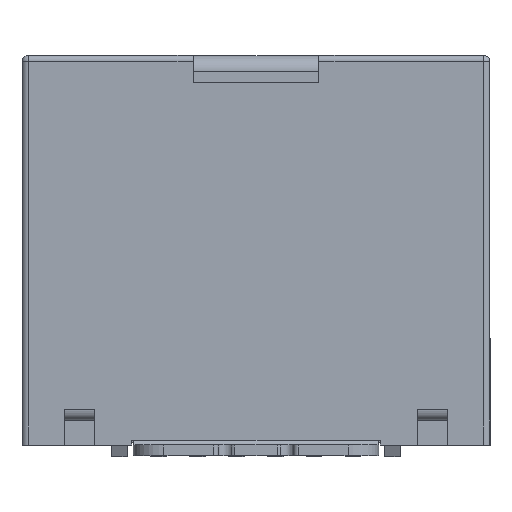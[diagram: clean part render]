
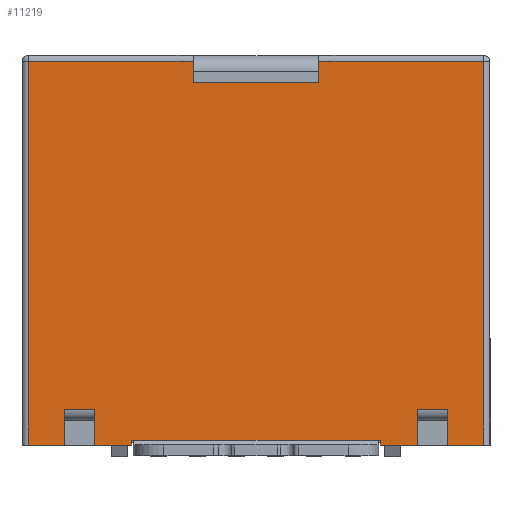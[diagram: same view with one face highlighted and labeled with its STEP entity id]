
A CAD part, top view. The second image highlights one B-rep face of the part: STEP entity #11219.
In plain terms, the highlighted planar face has unit normal (0, 0, 1).
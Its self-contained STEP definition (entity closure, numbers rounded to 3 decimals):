
#2042=DIRECTION('',(-1.,0.,0.));
#2043=VECTOR('',#2042,5.375);
#2044=CARTESIAN_POINT('',(9.252,4.774,13.843));
#2045=LINE('',#2044,#2043);
#2046=DIRECTION('',(0.,1.,0.));
#2047=VECTOR('',#2046,0.7);
#2048=CARTESIAN_POINT('',(9.252,4.074,13.843));
#2049=LINE('',#2048,#2047);
#2050=DIRECTION('',(0.,-1.,0.));
#2051=VECTOR('',#2050,0.7);
#2052=CARTESIAN_POINT('',(13.352,4.774,13.843));
#2053=LINE('',#2052,#2051);
#2054=DIRECTION('',(-1.,0.,0.));
#2055=VECTOR('',#2054,5.375);
#2056=CARTESIAN_POINT('',(18.727,4.774,13.843));
#2057=LINE('',#2056,#2055);
#2058=DIRECTION('',(0.,1.,0.));
#2059=VECTOR('',#2058,12.5);
#2060=CARTESIAN_POINT('',(18.727,-7.726,13.843));
#2061=LINE('',#2060,#2059);
#2062=DIRECTION('',(1.,0.,0.));
#2063=VECTOR('',#2062,1.175);
#2064=CARTESIAN_POINT('',(17.552,-7.726,13.843));
#2065=LINE('',#2064,#2063);
#2066=DIRECTION('',(1.,0.,0.));
#2067=VECTOR('',#2066,1.);
#2068=CARTESIAN_POINT('',(16.552,-6.576,13.843));
#2069=LINE('',#2068,#2067);
#2070=DIRECTION('',(1.,0.,0.));
#2071=VECTOR('',#2070,1.);
#2072=CARTESIAN_POINT('',(5.052,-6.576,13.843));
#2073=LINE('',#2072,#2071);
#2074=DIRECTION('',(1.,0.,0.));
#2075=VECTOR('',#2074,1.175);
#2076=CARTESIAN_POINT('',(3.877,-7.726,13.843));
#2077=LINE('',#2076,#2075);
#2078=DIRECTION('',(0.,-1.,0.));
#2079=VECTOR('',#2078,12.5);
#2080=CARTESIAN_POINT('',(3.877,4.774,13.843));
#2081=LINE('',#2080,#2079);
#2087=DIRECTION('',(1.,0.,0.));
#2088=VECTOR('',#2087,4.1);
#2089=CARTESIAN_POINT('',(9.252,4.074,13.843));
#2090=LINE('',#2089,#2088);
#2478=DIRECTION('',(0.,-1.,0.));
#2479=VECTOR('',#2478,1.15);
#2480=CARTESIAN_POINT('',(5.052,-6.576,13.843));
#2481=LINE('',#2480,#2479);
#2501=DIRECTION('',(0.,1.,0.));
#2502=VECTOR('',#2501,1.15);
#2503=CARTESIAN_POINT('',(6.052,-7.726,13.843));
#2504=LINE('',#2503,#2502);
#2509=DIRECTION('',(-1.,0.,0.));
#2510=VECTOR('',#2509,1.2);
#2511=CARTESIAN_POINT('',(7.252,-7.726,13.843));
#2512=LINE('',#2511,#2510);
#2525=DIRECTION('',(0.,-1.,0.));
#2526=VECTOR('',#2525,0.16);
#2527=CARTESIAN_POINT('',(7.252,-7.566,13.843));
#2528=LINE('',#2527,#2526);
#2533=DIRECTION('',(-1.,0.,0.));
#2534=VECTOR('',#2533,8.1);
#2535=CARTESIAN_POINT('',(15.352,-7.566,13.843));
#2536=LINE('',#2535,#2534);
#2541=DIRECTION('',(0.,1.,0.));
#2542=VECTOR('',#2541,0.16);
#2543=CARTESIAN_POINT('',(15.352,-7.726,13.843));
#2544=LINE('',#2543,#2542);
#2553=DIRECTION('',(-1.,0.,0.));
#2554=VECTOR('',#2553,1.2);
#2555=CARTESIAN_POINT('',(16.552,-7.726,13.843));
#2556=LINE('',#2555,#2554);
#2569=DIRECTION('',(0.,-1.,0.));
#2570=VECTOR('',#2569,1.15);
#2571=CARTESIAN_POINT('',(16.552,-6.576,13.843));
#2572=LINE('',#2571,#2570);
#2617=DIRECTION('',(0.,1.,0.));
#2618=VECTOR('',#2617,1.15);
#2619=CARTESIAN_POINT('',(17.552,-7.726,13.843));
#2620=LINE('',#2619,#2618);
#7921=CARTESIAN_POINT('',(9.252,4.074,13.843));
#7922=VERTEX_POINT('',#7921);
#7923=CARTESIAN_POINT('',(9.252,4.774,13.843));
#7924=VERTEX_POINT('',#7923);
#7966=CARTESIAN_POINT('',(13.352,4.774,13.843));
#7967=VERTEX_POINT('',#7966);
#7968=CARTESIAN_POINT('',(13.352,4.074,13.843));
#7969=VERTEX_POINT('',#7968);
#7976=CARTESIAN_POINT('',(18.727,4.774,13.843));
#7977=VERTEX_POINT('',#7976);
#7980=CARTESIAN_POINT('',(18.727,-7.726,13.843));
#7981=VERTEX_POINT('',#7980);
#7984=CARTESIAN_POINT('',(3.877,4.774,13.843));
#7985=VERTEX_POINT('',#7984);
#7986=CARTESIAN_POINT('',(17.552,-7.726,13.843));
#7987=VERTEX_POINT('',#7986);
#7988=CARTESIAN_POINT('',(17.552,-6.576,13.843));
#7989=VERTEX_POINT('',#7988);
#7990=CARTESIAN_POINT('',(16.552,-6.576,13.843));
#7991=VERTEX_POINT('',#7990);
#7992=CARTESIAN_POINT('',(16.552,-7.726,13.843));
#7993=VERTEX_POINT('',#7992);
#7994=CARTESIAN_POINT('',(15.352,-7.726,13.843));
#7995=VERTEX_POINT('',#7994);
#7996=CARTESIAN_POINT('',(15.352,-7.566,13.843));
#7997=VERTEX_POINT('',#7996);
#7998=CARTESIAN_POINT('',(7.252,-7.566,13.843));
#7999=VERTEX_POINT('',#7998);
#8000=CARTESIAN_POINT('',(7.252,-7.726,13.843));
#8001=VERTEX_POINT('',#8000);
#8002=CARTESIAN_POINT('',(6.052,-7.726,13.843));
#8003=VERTEX_POINT('',#8002);
#8004=CARTESIAN_POINT('',(6.052,-6.576,13.843));
#8005=VERTEX_POINT('',#8004);
#8006=CARTESIAN_POINT('',(5.052,-6.576,13.843));
#8007=VERTEX_POINT('',#8006);
#8008=CARTESIAN_POINT('',(5.052,-7.726,13.843));
#8009=VERTEX_POINT('',#8008);
#8010=CARTESIAN_POINT('',(3.877,-7.726,13.843));
#8011=VERTEX_POINT('',#8010);
#11174=CARTESIAN_POINT('',(11.302,-1.476,
13.843));
#11175=DIRECTION('',(0.,0.,1.));
#11176=DIRECTION('',(0.,1.,0.));
#11177=AXIS2_PLACEMENT_3D('',#11174,#11175,#11176);
#11178=PLANE('',#11177);
#11180=ORIENTED_EDGE('',*,*,#11179,.F.);
#11181=ORIENTED_EDGE('',*,*,#10146,.F.);
#11183=ORIENTED_EDGE('',*,*,#11182,.T.);
#11185=ORIENTED_EDGE('',*,*,#11184,.F.);
#11187=ORIENTED_EDGE('',*,*,#11186,.F.);
#11189=ORIENTED_EDGE('',*,*,#11188,.F.);
#11191=ORIENTED_EDGE('',*,*,#11190,.F.);
#11193=ORIENTED_EDGE('',*,*,#11192,.T.);
#11195=ORIENTED_EDGE('',*,*,#11194,.F.);
#11197=ORIENTED_EDGE('',*,*,#11196,.T.);
#11199=ORIENTED_EDGE('',*,*,#11198,.T.);
#11201=ORIENTED_EDGE('',*,*,#11200,.T.);
#11203=ORIENTED_EDGE('',*,*,#11202,.T.);
#11205=ORIENTED_EDGE('',*,*,#11204,.T.);
#11207=ORIENTED_EDGE('',*,*,#11206,.T.);
#11209=ORIENTED_EDGE('',*,*,#11208,.T.);
#11211=ORIENTED_EDGE('',*,*,#11210,.F.);
#11213=ORIENTED_EDGE('',*,*,#11212,.T.);
#11215=ORIENTED_EDGE('',*,*,#11214,.F.);
#11216=ORIENTED_EDGE('',*,*,#11167,.F.);
#11217=EDGE_LOOP('',(#11180,#11181,#11183,#11185,#11187,#11189,#11191,#11193,
#11195,#11197,#11199,#11201,#11203,#11205,#11207,#11209,#11211,#11213,#11215,
#11216));
#11218=FACE_OUTER_BOUND('',#11217,.F.);
#11219=ADVANCED_FACE('',(#11218),#11178,.T.);
#10146=EDGE_CURVE('',#7922,#7924,#2049,.T.);
#11167=EDGE_CURVE('',#7985,#8011,#2081,.T.);
#11179=EDGE_CURVE('',#7924,#7985,#2045,.T.);
#11182=EDGE_CURVE('',#7922,#7969,#2090,.T.);
#11184=EDGE_CURVE('',#7967,#7969,#2053,.T.);
#11186=EDGE_CURVE('',#7977,#7967,#2057,.T.);
#11188=EDGE_CURVE('',#7981,#7977,#2061,.T.);
#11190=EDGE_CURVE('',#7987,#7981,#2065,.T.);
#11192=EDGE_CURVE('',#7987,#7989,#2620,.T.);
#11194=EDGE_CURVE('',#7991,#7989,#2069,.T.);
#11196=EDGE_CURVE('',#7991,#7993,#2572,.T.);
#11198=EDGE_CURVE('',#7993,#7995,#2556,.T.);
#11200=EDGE_CURVE('',#7995,#7997,#2544,.T.);
#11202=EDGE_CURVE('',#7997,#7999,#2536,.T.);
#11204=EDGE_CURVE('',#7999,#8001,#2528,.T.);
#11206=EDGE_CURVE('',#8001,#8003,#2512,.T.);
#11208=EDGE_CURVE('',#8003,#8005,#2504,.T.);
#11210=EDGE_CURVE('',#8007,#8005,#2073,.T.);
#11212=EDGE_CURVE('',#8007,#8009,#2481,.T.);
#11214=EDGE_CURVE('',#8011,#8009,#2077,.T.);
